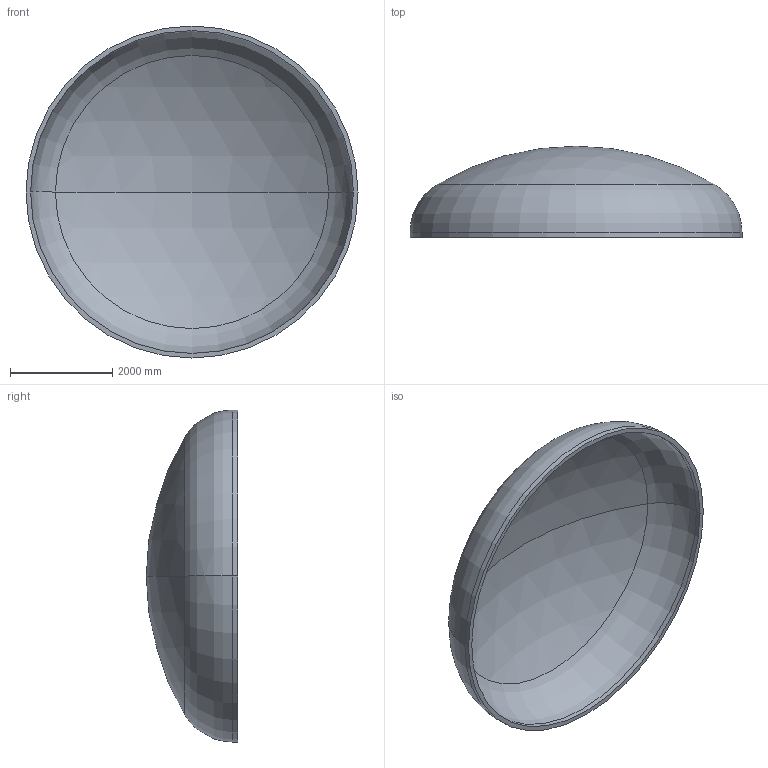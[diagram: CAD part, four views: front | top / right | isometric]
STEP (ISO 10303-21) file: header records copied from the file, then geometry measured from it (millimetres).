
FILE_DESCRIPTION (( 'STEP AP203' ), '1' );
FILE_NAME ('DIN 28013 Korbbogenform_-_Boden DIN 28013 - 6500 x 100 - I - s=90.step', '2016-07-04T10:43:40', ( '' ), ( '' ), 'SwSTEP 2.0', 'SolidWorks 2013', '' );
FILE_SCHEMA (( 'CONFIG_CONTROL_DESIGN' ));
Length unit declared in the file: millimetre
Products named in the file (1): DIN 28013 Korbbogenform_-_Boden DIN 28013 - 6500 x 100 - I - s=90
Bounding box: 6500 x 1788 x 6500 mm (x, y, z)
Volume: 4241681235.6 mm3; surface area: 96088896.7 mm2
Topology: 1 solids, 1 shells, 13 faces, 24 edges, 14 vertices
Faces by surface type: torus 4, cylinder 4, sphere 4, plane 1
Entity records: 407 total; most frequent: DIRECTION 72, CARTESIAN_POINT 52, ORIENTED_EDGE 48, AXIS2_PLACEMENT_3D 34, EDGE_CURVE 24, CIRCLE 20, VERTEX_POINT 14, EDGE_LOOP 14
